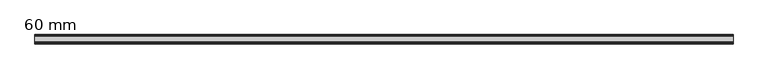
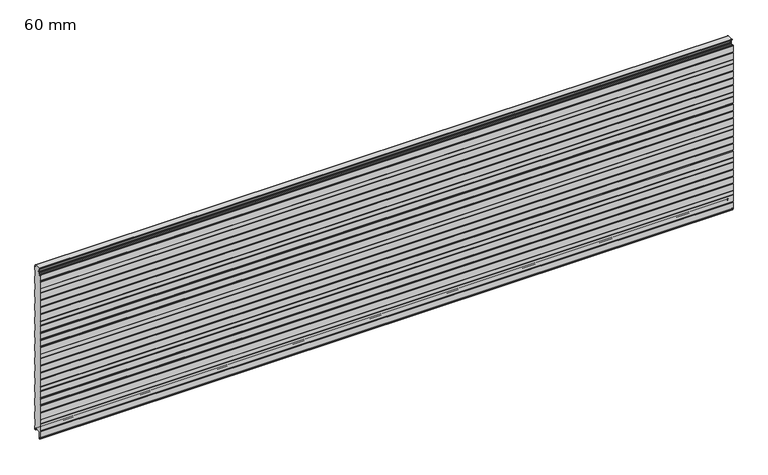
"""IFC4 building model written with IfcOpenShell, lengths in millimetres: plate geometry, HIANSA PANEL - H20.F02.002-PANELES DE FACHADA HORIZONTAL - PANEL PERFILADO - Panel de Muro Cortina : 60 mm."""

from ifc_helpers import new_model, si_unit, frame, origin, place, context, project, spatial, polyline, circle_curve, source, transform, mapped, element, save
from ifc_brep_helpers import plane_surface, cylinder_surface, revolved_surface, advanced_brep


def plate_60_mm_b20e5aa9(model_context):
    return source(origin(), model_context, "Body", "AdvancedBrep", [
        advanced_brep(
        [(-2200.0, -58.8752798, 1088.9050598), (-2200.0, -57.5170803, 1089.9655099), (-2200.0, -54.8776596, 1089.9655099), (-2200.0, -54.8776596, 1080.8), (-2200.0, -53.3776596, 1079.3), (-2200.0, -49.1276596, 1079.3), (-2200.0, -47.6276596, 1080.8), (-2200.0, -47.6276596, 1082.4013031), (-2200.0, -46.9880243, 1083.6300312), (-2200.0, -40.9305067, 1087.8715506), (-2200.0, -40.0776596, 1089.5098547), (-2200.0, -40.0776596, 1098.6062275), (-2200.0, -39.3889845, 1099.7990478), (-2200.0, -39.3889845, 1100.7990478), (-2200.0, -40.0776596, 1101.9918681), (-2200.0, -40.0776596, 1111.0896684), (-2200.0, -40.9305067, 1112.7279725), (-2200.0, -46.9880243, 1116.969492), (-2200.0, -47.6276596, 1118.19822), (-2200.0, -47.6276596, 1121.5805697), (-2200.0, -46.1276596, 1123.0805697), (-2200.0, -7.7494039, 1123.0810465), (-2200.0, -6.7486887, 1122.0803313), (-2200.0, -6.7486887, 1115.9337883), (-2200.0, -4.7472517, 1113.9323514), (-2200.0, -1.4941037, 1113.9323514), (-2200.0, -0.5, 1112.9382477), (-2200.0, -0.5, 1088.0627766), (-2200.0, -1.5005169, 1085.0504228), (-2200.0, -1.5005169, 1044.8881451), (-2200.0, -0.5, 1041.8865945), (-2200.0, -0.5, 997.0519734), (-2200.0, -1.5005169, 994.0504228), (-2200.0, -1.5005169, 953.8881451), (-2200.0, -0.5, 950.8865945), (-2200.0, -0.5, 906.0519734), (-2200.0, -1.5005169, 903.0504228), (-2200.0, -1.5005169, 862.8881451), (-2200.0, -0.5, 859.8865945), (-2200.0, -0.5, 815.0519734), (-2200.0, -1.5005169, 812.0504228), (-2200.0, -1.5005169, 771.8881451), (-2200.0, -0.5, 768.8865945), (-2200.0, -0.5, 724.0519734), (-2200.0, -1.5005169, 721.0504228), (-2200.0, -1.5005169, 680.8881451), (-2200.0, -0.5, 677.8865945), (-2200.0, -0.5, 633.0519734), (-2200.0, -1.5005169, 630.0504228), (-2200.0, -1.5005169, 589.8881451), (-2200.0, -0.5, 586.8865945), (-2200.0, -0.5, 542.0519734), (-2200.0, -1.5005169, 539.0504228), (-2200.0, -1.5005169, 498.8881451), (-2200.0, -0.5, 495.8865945), (-2200.0, -0.5, 451.0519734), (-2200.0, -1.5005169, 448.0504228), (-2200.0, -1.5005169, 407.8881451), (-2200.0, -0.5, 404.8865945), (-2200.0, -0.5, 360.0519734), (-2200.0, -1.5005169, 357.0504228), (-2200.0, -1.5005169, 316.8881451), (-2200.0, -0.5, 313.8865945), (-2200.0, -0.5, 269.0519734), (-2200.0, -1.5005169, 266.0504228), (-2200.0, -1.5005169, 225.8881451), (-2200.0, -0.5, 222.8865945), (-2200.0, -0.5, 178.0519734), (-2200.0, -1.5005169, 175.0504228), (-2200.0, -1.5005169, 134.8881451), (-2200.0, -0.5, 131.8865945), (-2200.0, -0.5, 87.0519734), (-2200.0, -1.5005169, 84.0504228), (-2200.0, -1.5005169, 43.8881451), (-2200.0, -0.5, 40.8962672), (-2200.0, -0.5, 15.9680961), (-2200.0, -1.5000258, 14.9680403), (-2200.0, -4.4999967, 14.9677262), (-2200.0, -5.5000043, 15.9677319), (-2200.0, -5.5004096, 23.5818123), (-2200.0, -7.5396439, 25.6210465), (-2200.0, -46.3470846, 25.6210465), (-2200.0, -48.8839497, 23.0841814), (-2200.0, -48.8839497, -19.2), (-2200.0, -53.6276596, -19.2), (-2200.0, -53.6276596, -10.5344901), (-2200.0, -55.1276596, -9.0344901), (-2200.0, -57.5178943, -9.0344901), (-2200.0, -58.8750825, -7.9748295), (-2200.0, -59.5, -5.4751593), (-2200.0, -59.5, 33.6239573), (-2200.0, -58.4846118, 37.6855101), (-2200.0, -59.5, 41.7470629), (-2200.0, -59.5, 84.8265935), (-2200.0, -58.5, 87.8265935), (-2200.0, -58.5, 113.1008712), (-2200.0, -59.5, 116.1008712), (-2200.0, -59.5, 159.1804017), (-2200.0, -58.4846118, 163.2419545), (-2200.0, -59.5, 167.3035073), (-2200.0, -59.5, 206.4026239), (-2200.0, -58.4846118, 210.4641767), (-2200.0, -59.5, 214.5257295), (-2200.0, -59.5, 253.6248461), (-2200.0, -58.4846118, 257.6863989), (-2200.0, -59.5, 261.7479517), (-2200.0, -59.5, 304.8274823), (-2200.0, -58.5, 307.8274823), (-2200.0, -58.5, 333.10176), (-2200.0, -59.5, 336.10176), (-2200.0, -59.5, 379.1812905), (-2200.0, -58.4846118, 383.2428433), (-2200.0, -59.5, 387.3043961), (-2200.0, -59.5, 426.4035127), (-2200.0, -58.4846118, 430.4650655), (-2200.0, -59.5, 434.5266183), (-2200.0, -59.5, 473.6257349), (-2200.0, -58.4846118, 477.6872877), (-2200.0, -59.5, 481.7488405), (-2200.0, -59.5, 524.8283711), (-2200.0, -58.5, 527.8283711), (-2200.0, -58.5, 553.1026488), (-2200.0, -59.5, 556.1026488), (-2200.0, -59.5, 599.1821793), (-2200.0, -58.4846118, 603.2437321), (-2200.0, -59.5, 607.3052849), (-2200.0, -59.5, 646.4044015), (-2200.0, -58.4846118, 650.4659543), (-2200.0, -59.5, 654.5275071), (-2200.0, -59.5, 693.6266237), (-2200.0, -58.4846118, 697.6881765), (-2200.0, -59.5, 701.7497293), (-2200.0, -59.5, 744.8292599), (-2200.0, -58.5, 747.8292599), (-2200.0, -58.5, 773.1035376), (-2200.0, -59.5, 776.1035376), (-2200.0, -59.5, 819.1830681), (-2200.0, -58.4846118, 823.2446209), (-2200.0, -59.5, 827.3061737), (-2200.0, -59.5, 866.4052903), (-2200.0, -58.4846118, 870.4668431), (-2200.0, -59.5, 874.5283959), (-2200.0, -59.5, 913.6275125), (-2200.0, -58.4846118, 917.6890653), (-2200.0, -59.5, 921.7506181), (-2200.0, -59.5, 964.8301487), (-2200.0, -58.5, 967.8301487), (-2200.0, -58.5, 993.1044264), (-2200.0, -59.5, 996.1044264), (-2200.0, -59.5, 1039.1839569), (-2200.0, -58.4846118, 1043.2455097), (-2200.0, -59.5, 1047.3070625), (-2200.0, -59.5, 1086.4061791), (2200.0, -58.8752798, 1088.9050598), (2200.0, -59.5, 1086.4061791), (2200.0, -59.5, 1047.3070625), (2200.0, -58.4846118, 1043.2455097), (2200.0, -59.5, 1039.1839569), (2200.0, -59.5, 996.1044264), (2200.0, -58.5, 993.1044264), (2200.0, -58.5, 967.8301487), (2200.0, -59.5, 964.8301487), (2200.0, -59.5, 921.7506181), (2200.0, -58.4846118, 917.6890653), (2200.0, -59.5, 913.6275125), (2200.0, -59.5, 874.5283959), (2200.0, -58.4846118, 870.4668431), (2200.0, -59.5, 866.4052903), (2200.0, -59.5, 827.3061737), (2200.0, -58.4846118, 823.2446209), (2200.0, -59.5, 819.1830681), (2200.0, -59.5, 776.1035376), (2200.0, -58.5, 773.1035376), (2200.0, -58.5, 747.8292599), (2200.0, -59.5, 744.8292599), (2200.0, -59.5, 701.7497293), (2200.0, -58.4846118, 697.6881765), (2200.0, -59.5, 693.6266237), (2200.0, -59.5, 654.5275071), (2200.0, -58.4846118, 650.4659543), (2200.0, -59.5, 646.4044015), (2200.0, -59.5, 607.3052849), (2200.0, -58.4846118, 603.2437321), (2200.0, -59.5, 599.1821793), (2200.0, -59.5, 556.1026488), (2200.0, -58.5, 553.1026488), (2200.0, -58.5, 527.8283711), (2200.0, -59.5, 524.8283711), (2200.0, -59.5, 481.7488405), (2200.0, -58.4846118, 477.6872877), (2200.0, -59.5, 473.6257349), (2200.0, -59.5, 434.5266183), (2200.0, -58.4846118, 430.4650655), (2200.0, -59.5, 426.4035127), (2200.0, -59.5, 387.3043961), (2200.0, -58.4846118, 383.2428433), (2200.0, -59.5, 379.1812905), (2200.0, -59.5, 336.10176), (2200.0, -58.5, 333.10176), (2200.0, -58.5, 307.8274823), (2200.0, -59.5, 304.8274823), (2200.0, -59.5, 261.7479517), (2200.0, -58.4846118, 257.6863989), (2200.0, -59.5, 253.6248461), (2200.0, -59.5, 214.5257295), (2200.0, -58.4846118, 210.4641767), (2200.0, -59.5, 206.4026239), (2200.0, -59.5, 167.3035073), (2200.0, -58.4846118, 163.2419545), (2200.0, -59.5, 159.1804017), (2200.0, -59.5, 116.1008712), (2200.0, -58.5, 113.1008712), (2200.0, -58.5, 87.8265935), (2200.0, -59.5, 84.8265935), (2200.0, -59.5, 41.7470629), (2200.0, -58.4846118, 37.6855101), (2200.0, -59.5, 33.6239573), (2200.0, -59.5, -5.4751593), (2200.0, -58.8750825, -7.9748295), (2200.0, -57.5178943, -9.0344901), (2200.0, -55.1276596, -9.0344901), (2200.0, -53.6276596, -10.5344901), (2200.0, -53.6276596, -19.2), (2200.0, -48.8839497, -19.2), (2200.0, -48.8839497, 23.0841814), (2200.0, -46.3470846, 25.6210465), (2200.0, -7.5396439, 25.6210465), (2200.0, -5.5004096, 23.5818123), (2200.0, -5.5004096, 15.9677319), (2200.0, -4.4999967, 14.9677262), (2200.0, -1.5000258, 14.9680403), (2200.0, -0.5, 15.9680961), (2200.0, -0.5, 40.8962672), (2200.0, -1.5005169, 43.8881451), (2200.0, -1.5005169, 84.0504228), (2200.0, -0.5, 87.0519734), (2200.0, -0.5, 131.8865945), (2200.0, -1.5005169, 134.8881451), (2200.0, -1.5005169, 175.0504228), (2200.0, -0.5, 178.0519734), (2200.0, -0.5, 222.8865945), (2200.0, -1.5005169, 225.8881451), (2200.0, -1.5005169, 266.0504228), (2200.0, -0.5, 269.0519734), (2200.0, -0.5, 313.8865945), (2200.0, -1.5005169, 316.8881451), (2200.0, -1.5005169, 357.0504228), (2200.0, -0.5, 360.0519734), (2200.0, -0.5, 404.8865945), (2200.0, -1.5005169, 407.8881451), (2200.0, -1.5005169, 448.0504228), (2200.0, -0.5, 451.0519734), (2200.0, -0.5, 495.8865945), (2200.0, -1.5005169, 498.8881451), (2200.0, -1.5005169, 539.0504228), (2200.0, -0.5, 542.0519734), (2200.0, -0.5, 586.8865945), (2200.0, -1.5005169, 589.8881451), (2200.0, -1.5005169, 630.0504228), (2200.0, -0.5, 633.0519734), (2200.0, -0.5, 677.8865945), (2200.0, -1.5005169, 680.8881451), (2200.0, -1.5005169, 721.0504228), (2200.0, -0.5, 724.0519734), (2200.0, -0.5, 768.8865945), (2200.0, -1.5005169, 771.8881451), (2200.0, -1.5005169, 812.0504228), (2200.0, -0.5, 815.0519734), (2200.0, -0.5, 859.8865945), (2200.0, -1.5005169, 862.8881451), (2200.0, -1.5005169, 903.0504228), (2200.0, -0.5, 906.0519734), (2200.0, -0.5, 950.8865945), (2200.0, -1.5005169, 953.8881451), (2200.0, -1.5005169, 994.0504228), (2200.0, -0.5, 997.0519734), (2200.0, -0.5, 1041.8865945), (2200.0, -1.5005169, 1044.8881451), (2200.0, -1.5005169, 1085.0504228), (2200.0, -0.5, 1088.0627766), (2200.0, -0.5, 1112.9382477), (2200.0, -1.4941037, 1113.9323514), (2200.0, -4.7472517, 1113.9323514), (2200.0, -6.7486887, 1115.9337883), (2200.0, -6.7486887, 1122.0803313), (2200.0, -7.7494039, 1123.0810465), (2200.0, -46.1276596, 1123.0810465), (2200.0, -47.6276596, 1121.5805697), (2200.0, -47.6276596, 1118.19822), (2200.0, -46.9880243, 1116.969492), (2200.0, -40.9305067, 1112.7279725), (2200.0, -40.0776596, 1111.0896684), (2200.0, -40.0776596, 1101.9918681), (2200.0, -39.3889845, 1100.7990478), (2200.0, -39.3889845, 1099.7990478), (2200.0, -40.0776596, 1098.6062275), (2200.0, -40.0776596, 1089.5098547), (2200.0, -40.9305067, 1087.8715506), (2200.0, -46.9880243, 1083.6300312), (2200.0, -47.6276596, 1082.4013031), (2200.0, -47.6276596, 1080.8), (2200.0, -49.1276596, 1079.3), (2200.0, -53.3776596, 1079.3), (2200.0, -54.8776596, 1080.8), (2200.0, -54.8776596, 1089.9655099), (2200.0, -57.5170803, 1089.9655099)],
        [
            (0, 1, circle_curve(frame((-2200.0, -57.5170803, 1088.5655099), z_axis=(-1.0, 0.0, 0.0), x_axis=(0.0, 0.0, 1.0)), 1.4)),
            (1, 2),
            (2, 3),
            (3, 4, circle_curve(frame((-2200.0, -53.3776596, 1080.8), z_axis=(1.0, 0.0, 0.0), x_axis=(0.0, 0.0, 1.0)), 1.5)),
            (4, 5),
            (5, 6, circle_curve(frame((-2200.0, -49.1276596, 1080.8), z_axis=(1.0, 0.0, 0.0), x_axis=(0.0, 0.0, 1.0)), 1.5)),
            (6, 7),
            (7, 8, circle_curve(frame((-2200.0, -46.1276596, 1082.4013031), z_axis=(-1.0, 0.0, 0.0), x_axis=(0.0, 0.0, 1.0)), 1.5)),
            (8, 9),
            (9, 10, circle_curve(frame((-2200.0, -42.0776596, 1089.5098547), z_axis=(1.0, 0.0, 0.0), x_axis=(0.0, 0.0, 1.0)), 2.0)),
            (10, 11),
            (11, 12),
            (12, 13, circle_curve(frame((-2200.0, -40.2550099, 1100.2990478), z_axis=(1.0, 0.0, 0.0), x_axis=(0.0, 0.0, 1.0)), 1.0)),
            (13, 14),
            (14, 15),
            (15, 16, circle_curve(frame((-2200.0, -42.0776596, 1111.0896684), z_axis=(1.0, 0.0, 0.0), x_axis=(0.0, 0.0, 1.0)), 2.0)),
            (16, 17),
            (17, 18, circle_curve(frame((-2200.0, -46.1276596, 1118.19822), z_axis=(-1.0, 0.0, 0.0), x_axis=(0.0, 0.0, 1.0)), 1.5)),
            (18, 19),
            (19, 20, circle_curve(frame((-2200.0, -46.1276596, 1121.5805697), z_axis=(-1.0, 0.0, 0.0), x_axis=(0.0, 0.0, 1.0)), 1.5)),
            (20, 21),
            (21, 22, circle_curve(frame((-2200.0, -7.7494039, 1122.0803313), z_axis=(-1.0, 0.0, 0.0), x_axis=(0.0, 0.0, 1.0)), 1.0007153)),
            (22, 23),
            (23, 24, circle_curve(frame((-2200.0, -4.7472517, 1115.9337883), z_axis=(1.0, 0.0, 0.0), x_axis=(0.0, 0.0, 1.0)), 2.0014369)),
            (24, 25),
            (25, 26, circle_curve(frame((-2200.0, -1.4941037, 1112.9382477), z_axis=(-1.0, 0.0, 0.0), x_axis=(0.0, 0.0, 1.0)), 0.9941037)),
            (26, 27),
            (27, 28),
            (28, 29),
            (29, 30),
            (30, 31),
            (31, 32),
            (32, 33),
            (33, 34),
            (34, 35),
            (35, 36),
            (36, 37),
            (37, 38),
            (38, 39),
            (39, 40),
            (40, 41),
            (41, 42),
            (42, 43),
            (43, 44),
            (44, 45),
            (45, 46),
            (46, 47),
            (47, 48),
            (48, 49),
            (49, 50),
            (50, 51),
            (51, 52),
            (52, 53),
            (53, 54),
            (54, 55),
            (55, 56),
            (56, 57),
            (57, 58),
            (58, 59),
            (59, 60),
            (60, 61),
            (61, 62),
            (62, 63),
            (63, 64),
            (64, 65),
            (65, 66),
            (66, 67),
            (67, 68),
            (68, 69),
            (69, 70),
            (70, 71),
            (71, 72),
            (72, 73),
            (73, 74),
            (74, 75),
            (75, 76, circle_curve(frame((-2200.0, -1.5000558, 15.9680961), z_axis=(-1.0, 0.0, 0.0), x_axis=(0.0, 0.0, 1.0)), 1.0000558)),
            (76, 77),
            (77, 78, circle_curve(frame((-2200.0, -4.4999986, 15.9677319), z_axis=(-1.0, 0.0, 0.0), x_axis=(0.0, 0.0, 1.0)), 1.0000057)),
            (78, 79),
            (79, 80, circle_curve(frame((-2200.0, -7.5396439, 23.5818123), z_axis=(1.0, 0.0, 0.0), x_axis=(0.0, 0.0, 1.0)), 2.0392343)),
            (80, 81),
            (81, 82, circle_curve(frame((-2200.0, -46.3470846, 23.0841814), z_axis=(1.0, 0.0, 0.0), x_axis=(0.0, 0.0, 1.0)), 2.5368651)),
            (82, 83),
            (83, 84),
            (84, 85),
            (85, 86, circle_curve(frame((-2200.0, -55.1276596, -10.5344901), z_axis=(1.0, 0.0, 0.0), x_axis=(0.0, 0.0, 1.0)), 1.5)),
            (86, 87),
            (87, 88, circle_curve(frame((-2200.0, -57.5178943, -7.6355325), z_axis=(-1.0, 0.0, 0.0), x_axis=(0.0, 0.0, 1.0)), 1.3989576)),
            (88, 89),
            (89, 90),
            (90, 91),
            (91, 92),
            (92, 93),
            (93, 94),
            (94, 95),
            (95, 96),
            (96, 97),
            (97, 98),
            (98, 99),
            (99, 100),
            (100, 101),
            (101, 102),
            (102, 103),
            (103, 104),
            (104, 105),
            (105, 106),
            (106, 107),
            (107, 108),
            (108, 109),
            (109, 110),
            (110, 111),
            (111, 112),
            (112, 113),
            (113, 114),
            (114, 115),
            (115, 116),
            (116, 117),
            (117, 118),
            (118, 119),
            (119, 120),
            (120, 121),
            (121, 122),
            (122, 123),
            (123, 124),
            (124, 125),
            (125, 126),
            (126, 127),
            (127, 128),
            (128, 129),
            (129, 130),
            (130, 131),
            (131, 132),
            (132, 133),
            (133, 134),
            (134, 135),
            (135, 136),
            (136, 137),
            (137, 138),
            (138, 139),
            (139, 140),
            (140, 141),
            (141, 142),
            (142, 143),
            (143, 144),
            (144, 145),
            (145, 146),
            (146, 147),
            (147, 148),
            (148, 149),
            (149, 150),
            (150, 151),
            (151, 152),
            (152, 0),
            (153, 154),
            (154, 155),
            (155, 156),
            (156, 157),
            (157, 158),
            (158, 159),
            (159, 160),
            (160, 161),
            (161, 162),
            (162, 163),
            (163, 164),
            (164, 165),
            (165, 166),
            (166, 167),
            (167, 168),
            (168, 169),
            (169, 170),
            (170, 171),
            (171, 172),
            (172, 173),
            (173, 174),
            (174, 175),
            (175, 176),
            (176, 177),
            (177, 178),
            (178, 179),
            (179, 180),
            (180, 181),
            (181, 182),
            (182, 183),
            (183, 184),
            (184, 185),
            (185, 186),
            (186, 187),
            (187, 188),
            (188, 189),
            (189, 190),
            (190, 191),
            (191, 192),
            (192, 193),
            (193, 194),
            (194, 195),
            (195, 196),
            (196, 197),
            (197, 198),
            (198, 199),
            (199, 200),
            (200, 201),
            (201, 202),
            (202, 203),
            (203, 204),
            (204, 205),
            (205, 206),
            (206, 207),
            (207, 208),
            (208, 209),
            (209, 210),
            (210, 211),
            (211, 212),
            (212, 213),
            (213, 214),
            (214, 215),
            (215, 216),
            (216, 217),
            (217, 218),
            (218, 219, circle_curve(frame((2200.0, -57.5178943, -7.6355325), z_axis=(1.0, 0.0, 0.0), x_axis=(0.0, 0.0, 1.0)), 1.3989576)),
            (219, 220),
            (220, 221, circle_curve(frame((2200.0, -55.1276596, -10.5344901), z_axis=(-1.0, 0.0, 0.0), x_axis=(0.0, 0.0, 1.0)), 1.5)),
            (221, 222),
            (222, 223),
            (223, 224),
            (224, 225, circle_curve(frame((2200.0, -46.3470846, 23.0841814), z_axis=(-1.0, 0.0, 0.0), x_axis=(0.0, 0.0, 1.0)), 2.5368651)),
            (225, 226),
            (226, 227, circle_curve(frame((2200.0, -7.5396439, 23.5818123), z_axis=(-1.0, 0.0, 0.0), x_axis=(0.0, 0.0, 1.0)), 2.0392343)),
            (227, 228),
            (228, 229, circle_curve(frame((2200.0, -4.4999986, 15.9677319), z_axis=(1.0, 0.0, 0.0), x_axis=(0.0, 0.0, 1.0)), 1.0000057)),
            (229, 230),
            (230, 231, circle_curve(frame((2200.0, -1.5000558, 15.9680961), z_axis=(1.0, 0.0, 0.0), x_axis=(0.0, 0.0, 1.0)), 1.0000558)),
            (231, 232),
            (232, 233),
            (233, 234),
            (234, 235),
            (235, 236),
            (236, 237),
            (237, 238),
            (238, 239),
            (239, 240),
            (240, 241),
            (241, 242),
            (242, 243),
            (243, 244),
            (244, 245),
            (245, 246),
            (246, 247),
            (247, 248),
            (248, 249),
            (249, 250),
            (250, 251),
            (251, 252),
            (252, 253),
            (253, 254),
            (254, 255),
            (255, 256),
            (256, 257),
            (257, 258),
            (258, 259),
            (259, 260),
            (260, 261),
            (261, 262),
            (262, 263),
            (263, 264),
            (264, 265),
            (265, 266),
            (266, 267),
            (267, 268),
            (268, 269),
            (269, 270),
            (270, 271),
            (271, 272),
            (272, 273),
            (273, 274),
            (274, 275),
            (275, 276),
            (276, 277),
            (277, 278),
            (278, 279),
            (279, 280),
            (280, 281, circle_curve(frame((2200.0, -1.4941037, 1112.9382477), z_axis=(1.0, 0.0, 0.0), x_axis=(0.0, 0.0, 1.0)), 0.9941037)),
            (281, 282),
            (282, 283, circle_curve(frame((2200.0, -4.7472517, 1115.9337883), z_axis=(-1.0, 0.0, 0.0), x_axis=(0.0, 0.0, 1.0)), 2.0014369)),
            (283, 284),
            (284, 285, circle_curve(frame((2200.0, -7.7494039, 1122.0803313), z_axis=(1.0, 0.0, 0.0), x_axis=(0.0, 0.0, 1.0)), 1.0007153)),
            (285, 286),
            (286, 287, circle_curve(frame((2200.0, -46.1276596, 1121.5805697), z_axis=(1.0, 0.0, 0.0), x_axis=(0.0, 0.0, 1.0)), 1.5)),
            (287, 288),
            (288, 289, circle_curve(frame((2200.0, -46.1276596, 1118.19822), z_axis=(1.0, 0.0, 0.0), x_axis=(0.0, 0.0, 1.0)), 1.5)),
            (289, 290),
            (290, 291, circle_curve(frame((2200.0, -42.0776596, 1111.0896684), z_axis=(-1.0, 0.0, 0.0), x_axis=(0.0, 0.0, 1.0)), 2.0)),
            (291, 292),
            (292, 293),
            (293, 294, circle_curve(frame((2200.0, -40.2550099, 1100.2990478), z_axis=(-1.0, 0.0, 0.0), x_axis=(0.0, 0.0, 1.0)), 1.0)),
            (294, 295),
            (295, 296),
            (296, 297, circle_curve(frame((2200.0, -42.0776596, 1089.5098547), z_axis=(-1.0, 0.0, 0.0), x_axis=(0.0, 0.0, 1.0)), 2.0)),
            (297, 298),
            (298, 299, circle_curve(frame((2200.0, -46.1276596, 1082.4013031), z_axis=(1.0, 0.0, 0.0), x_axis=(0.0, 0.0, 1.0)), 1.5)),
            (299, 300),
            (300, 301, circle_curve(frame((2200.0, -49.1276596, 1080.8), z_axis=(-1.0, 0.0, 0.0), x_axis=(0.0, 0.0, 1.0)), 1.5)),
            (301, 302),
            (302, 303, circle_curve(frame((2200.0, -53.3776596, 1080.8), z_axis=(-1.0, 0.0, 0.0), x_axis=(0.0, 0.0, 1.0)), 1.5)),
            (303, 304),
            (304, 305),
            (305, 153, circle_curve(frame((2200.0, -57.5170803, 1088.5655099), z_axis=(1.0, 0.0, 0.0), x_axis=(0.0, 0.0, 1.0)), 1.4)),
            (147, 159),
            (158, 148),
            (146, 160),
            (145, 161),
            (144, 162),
            (143, 163),
            (142, 164),
            (141, 165),
            (140, 166),
            (139, 167),
            (138, 168),
            (137, 169),
            (136, 170),
            (135, 171),
            (134, 172),
            (133, 173),
            (132, 174),
            (131, 175),
            (130, 176),
            (129, 177),
            (128, 178),
            (127, 179),
            (126, 180),
            (125, 181),
            (124, 182),
            (123, 183),
            (122, 184),
            (121, 185),
            (120, 186),
            (119, 187),
            (118, 188),
            (117, 189),
            (116, 190),
            (115, 191),
            (114, 192),
            (113, 193),
            (112, 194),
            (111, 195),
            (110, 196),
            (109, 197),
            (108, 198),
            (107, 199),
            (106, 200),
            (105, 201),
            (104, 202),
            (103, 203),
            (102, 204),
            (101, 205),
            (100, 206),
            (99, 207),
            (98, 208),
            (97, 209),
            (96, 210),
            (95, 211),
            (94, 212),
            (93, 213),
            (92, 214),
            (91, 215),
            (90, 216),
            (89, 217),
            (88, 218),
            (87, 219),
            (86, 220),
            (85, 221),
            (84, 222),
            (83, 223),
            (82, 224),
            (81, 225),
            (80, 226),
            (79, 227),
            (78, 228),
            (74, 232),
            (231, 75),
            (73, 233),
            (72, 234),
            (71, 235),
            (70, 236),
            (69, 237),
            (68, 238),
            (67, 239),
            (66, 240),
            (65, 241),
            (64, 242),
            (63, 243),
            (62, 244),
            (61, 245),
            (60, 246),
            (59, 247),
            (58, 248),
            (57, 249),
            (56, 250),
            (55, 251),
            (54, 252),
            (53, 253),
            (52, 254),
            (51, 255),
            (50, 256),
            (49, 257),
            (48, 258),
            (47, 259),
            (46, 260),
            (45, 261),
            (44, 262),
            (43, 263),
            (42, 264),
            (41, 265),
            (40, 266),
            (39, 267),
            (38, 268),
            (37, 269),
            (36, 270),
            (35, 271),
            (34, 272),
            (33, 273),
            (32, 274),
            (31, 275),
            (30, 276),
            (152, 154),
            (153, 0),
            (151, 155),
            (150, 156),
            (149, 157),
            (29, 277),
            (28, 278),
            (27, 279),
            (26, 280),
            (25, 281),
            (24, 282),
            (23, 283),
            (22, 284),
            (21, 285),
            (20, 286),
            (19, 287),
            (18, 288),
            (17, 289),
            (16, 290),
            (15, 291),
            (9, 297),
            (296, 10),
            (8, 298),
            (7, 299),
            (6, 300),
            (5, 301),
            (4, 302),
            (3, 303),
            (2, 304),
            (1, 305),
            (14, 292),
            (13, 293),
            (12, 294),
            (11, 295),
            (77, 229),
            (76, 230),
        ],
        [
            plane_surface(frame((-2200.0, 0.0, 0.0), z_axis=(-1.0, 0.0, 0.0), x_axis=(0.0, 0.0, 1.0))),
            plane_surface(frame((2200.0, 0.0, 0.0), z_axis=(1.0, 0.0, 0.0), x_axis=(0.0, 0.0, 1.0))),
            plane_surface(frame((-2200.0, -59.5, 996.1044264), z_axis=(0.0, -0.9486832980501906, -0.3162277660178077), x_axis=(1.0, 0.0, 0.0))),
            plane_surface(frame((-2200.0, -58.5, 993.1044264), z_axis=(0.0, -1.0, 0.0), x_axis=(1.0, 0.0, 0.0))),
            plane_surface(frame((-2200.0, -58.5, 967.8301487), z_axis=(0.0, -0.9486832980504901, 0.3162277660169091), x_axis=(1.0, 0.0, 0.0))),
            plane_surface(frame((-2200.0, -59.5, 964.8301487), z_axis=(0.0, -1.0, 0.0), x_axis=(1.0, 0.0, 0.0))),
            plane_surface(frame((-2200.0, -59.5, 921.7506181), z_axis=(0.0, -0.9701425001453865, -0.2425356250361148), x_axis=(1.0, 0.0, 0.0))),
            plane_surface(frame((-2200.0, -58.4846118, 917.6890653), z_axis=(0.0, -0.9701425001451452, 0.2425356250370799), x_axis=(1.0, 0.0, 0.0))),
            plane_surface(frame((-2200.0, -59.5, 913.6275125), z_axis=(0.0, -1.0, 0.0), x_axis=(1.0, 0.0, 0.0))),
            plane_surface(frame((-2200.0, -59.5, 874.5283959), z_axis=(0.0, -0.9701425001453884, -0.2425356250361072), x_axis=(1.0, 0.0, 0.0))),
            plane_surface(frame((-2200.0, -58.4846118, 870.4668431), z_axis=(0.0, -0.9701425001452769, 0.24253562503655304), x_axis=(1.0, 0.0, 0.0))),
            plane_surface(frame((-2200.0, -59.5, 866.4052903), z_axis=(0.0, -1.0, 0.0), x_axis=(1.0, 0.0, 0.0))),
            plane_surface(frame((-2200.0, -59.5, 827.3061737), z_axis=(0.0, -0.9701425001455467, -0.24253562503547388), x_axis=(1.0, 0.0, 0.0))),
            plane_surface(frame((-2200.0, -58.4846118, 823.2446209), z_axis=(0.0, -0.9701425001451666, 0.24253562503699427), x_axis=(1.0, 0.0, 0.0))),
            plane_surface(frame((-2200.0, -59.5, 819.1830681), z_axis=(0.0, -1.0, 0.0), x_axis=(1.0, 0.0, 0.0))),
            plane_surface(frame((-2200.0, -59.5, 776.1035376), z_axis=(0.0, -0.9486832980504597, -0.3162277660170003), x_axis=(1.0, 0.0, 0.0))),
            plane_surface(frame((-2200.0, -58.5, 773.1035376), z_axis=(0.0, -1.0, 0.0), x_axis=(1.0, 0.0, 0.0))),
            plane_surface(frame((-2200.0, -58.5, 747.8292599), z_axis=(0.0, -0.9486832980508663, 0.3162277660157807), x_axis=(1.0, 0.0, 0.0))),
            plane_surface(frame((-2200.0, -59.5, 744.8292599), z_axis=(0.0, -1.0, 0.0), x_axis=(1.0, 0.0, 0.0))),
            plane_surface(frame((-2200.0, -59.5, 701.7497293), z_axis=(0.0, -0.9701425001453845, -0.24253562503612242), x_axis=(1.0, 0.0, 0.0))),
            plane_surface(frame((-2200.0, -58.4846118, 697.6881765), z_axis=(0.0, -0.9701425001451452, 0.2425356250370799), x_axis=(1.0, 0.0, 0.0))),
            plane_surface(frame((-2200.0, -59.5, 693.6266237), z_axis=(0.0, -1.0, 0.0), x_axis=(1.0, 0.0, 0.0))),
            plane_surface(frame((-2200.0, -59.5, 654.5275071), z_axis=(0.0, -0.9701425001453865, -0.2425356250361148), x_axis=(1.0, 0.0, 0.0))),
            plane_surface(frame((-2200.0, -58.4846118, 650.4659543), z_axis=(0.0, -0.9701425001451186, 0.24253562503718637), x_axis=(1.0, 0.0, 0.0))),
            plane_surface(frame((-2200.0, -59.5, 646.4044015), z_axis=(0.0, -1.0, 0.0), x_axis=(1.0, 0.0, 0.0))),
            plane_surface(frame((-2200.0, -59.5, 607.3052849), z_axis=(0.0, -0.9701425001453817, -0.24253562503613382), x_axis=(1.0, 0.0, 0.0))),
            plane_surface(frame((-2200.0, -58.4846118, 603.2437321), z_axis=(0.0, -0.9701425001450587, 0.242535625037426), x_axis=(1.0, 0.0, 0.0))),
            plane_surface(frame((-2200.0, -59.5, 599.1821793), z_axis=(0.0, -1.0, 0.0), x_axis=(1.0, 0.0, 0.0))),
            plane_surface(frame((-2200.0, -59.5, 556.1026488), z_axis=(0.0, -0.948683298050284, -0.3162277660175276), x_axis=(1.0, 0.0, 0.0))),
            plane_surface(frame((-2200.0, -58.5, 553.1026488), z_axis=(0.0, -1.0, 0.0), x_axis=(1.0, 0.0, 0.0))),
            plane_surface(frame((-2200.0, -58.5, 527.8283711), z_axis=(0.0, -0.9486832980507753, 0.31622776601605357), x_axis=(1.0, 0.0, 0.0))),
            plane_surface(frame((-2200.0, -59.5, 524.8283711), z_axis=(0.0, -1.0, 0.0), x_axis=(1.0, 0.0, 0.0))),
            plane_surface(frame((-2200.0, -59.5, 481.7488405), z_axis=(0.0, -0.9701425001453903, -0.2425356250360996), x_axis=(1.0, 0.0, 0.0))),
            plane_surface(frame((-2200.0, -58.4846118, 477.6872877), z_axis=(0.0, -0.9701425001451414, 0.24253562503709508), x_axis=(1.0, 0.0, 0.0))),
            plane_surface(frame((-2200.0, -59.5, 473.6257349), z_axis=(0.0, -1.0, 0.0), x_axis=(1.0, 0.0, 0.0))),
            plane_surface(frame((-2200.0, -59.5, 434.5266183), z_axis=(0.0, -0.9701425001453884, -0.2425356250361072), x_axis=(1.0, 0.0, 0.0))),
            plane_surface(frame((-2200.0, -58.4846118, 430.4650655), z_axis=(0.0, -0.9701425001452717, 0.24253562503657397), x_axis=(1.0, 0.0, 0.0))),
            plane_surface(frame((-2200.0, -59.5, 426.4035127), z_axis=(0.0, -1.0, 0.0), x_axis=(1.0, 0.0, 0.0))),
            plane_surface(frame((-2200.0, -59.5, 387.3043961), z_axis=(0.0, -0.9701425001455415, -0.2425356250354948), x_axis=(1.0, 0.0, 0.0))),
            plane_surface(frame((-2200.0, -58.4846118, 383.2428433), z_axis=(0.0, -0.9701425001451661, 0.2425356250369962), x_axis=(1.0, 0.0, 0.0))),
            plane_surface(frame((-2200.0, -59.5, 379.1812905), z_axis=(0.0, -1.0, 0.0), x_axis=(1.0, 0.0, 0.0))),
            plane_surface(frame((-2200.0, -59.5, 336.10176), z_axis=(0.0, -0.9486832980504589, -0.3162277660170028), x_axis=(1.0, 0.0, 0.0))),
            plane_surface(frame((-2200.0, -58.5, 333.10176), z_axis=(0.0, -1.0, 0.0), x_axis=(1.0, 0.0, 0.0))),
            plane_surface(frame((-2200.0, -58.5, 307.8274823), z_axis=(0.0, -0.9486832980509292, 0.3162277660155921), x_axis=(1.0, 0.0, 0.0))),
            plane_surface(frame((-2200.0, -59.5, 304.8274823), z_axis=(0.0, -1.0, 0.0), x_axis=(1.0, 0.0, 0.0))),
            plane_surface(frame((-2200.0, -59.5, 261.7479517), z_axis=(0.0, -0.9701425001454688, -0.2425356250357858), x_axis=(1.0, 0.0, 0.0))),
            plane_surface(frame((-2200.0, -58.4846118, 257.6863989), z_axis=(0.0, -0.9701425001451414, 0.24253562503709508), x_axis=(1.0, 0.0, 0.0))),
            plane_surface(frame((-2200.0, -59.5, 253.6248461), z_axis=(0.0, -1.0, 0.0), x_axis=(1.0, 0.0, 0.0))),
            plane_surface(frame((-2200.0, -59.5, 214.5257295), z_axis=(0.0, -0.9701425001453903, -0.2425356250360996), x_axis=(1.0, 0.0, 0.0))),
            plane_surface(frame((-2200.0, -58.4846118, 210.4641767), z_axis=(0.0, -0.9701425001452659, 0.24253562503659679), x_axis=(1.0, 0.0, 0.0))),
            plane_surface(frame((-2200.0, -59.5, 206.4026239), z_axis=(0.0, -1.0, 0.0), x_axis=(1.0, 0.0, 0.0))),
            plane_surface(frame((-2200.0, -59.5, 167.3035073), z_axis=(0.0, -0.9701425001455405, -0.2425356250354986), x_axis=(1.0, 0.0, 0.0))),
            plane_surface(frame((-2200.0, -58.4846118, 163.2419545), z_axis=(0.0, -0.9701425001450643, 0.24253562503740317), x_axis=(1.0, 0.0, 0.0))),
            plane_surface(frame((-2200.0, -59.5, 159.1804017), z_axis=(0.0, -1.0, 0.0), x_axis=(1.0, 0.0, 0.0))),
            plane_surface(frame((-2200.0, -59.5, 116.1008712), z_axis=(0.0, -0.948683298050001, -0.31622776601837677), x_axis=(1.0, 0.0, 0.0))),
            plane_surface(frame((-2200.0, -58.5, 113.1008712), z_axis=(0.0, -1.0, 0.0), x_axis=(1.0, 0.0, 0.0))),
            plane_surface(frame((-2200.0, -58.5, 87.8265935), z_axis=(0.0, -0.9486832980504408, 0.31622776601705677), x_axis=(1.0, 0.0, 0.0))),
            plane_surface(frame((-2200.0, -59.5, 84.8265935), z_axis=(0.0, -1.0, 0.0), x_axis=(1.0, 0.0, 0.0))),
            plane_surface(frame((-2200.0, -59.5, 41.7470629), z_axis=(0.0, -0.9701425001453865, -0.2425356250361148), x_axis=(1.0, 0.0, 0.0))),
            plane_surface(frame((-2200.0, -58.4846118, 37.6855101), z_axis=(0.0, -0.9701425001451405, 0.24253562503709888), x_axis=(1.0, 0.0, 0.0))),
            plane_surface(frame((-2200.0, -59.5, 33.6239573), z_axis=(0.0, -1.0, 0.0), x_axis=(1.0, 0.0, 0.0))),
            plane_surface(frame((-2200.0, -59.5, -5.4751593), z_axis=(0.0, -0.9701425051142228, -0.24253560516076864), x_axis=(1.0, 0.0, 0.0))),
            cylinder_surface(frame((-2200.0, -57.5178943, -7.6355325), z_axis=(-1.0, 0.0, 0.0), x_axis=(0.0, 0.0, 1.0)), 1.3989576),
            plane_surface(frame((-2200.0, -57.5178943, -9.0344901), z_axis=(0.0, 0.0, -1.0), x_axis=(1.0, 0.0, 0.0))),
            revolved_surface(polyline([(2200.0, -55.1276596, -9.0344901), (-2200.0, -55.1276596, -9.0344901)]), (-2200.0, -55.1276596, -10.5344901), (1.0, 0.0, 0.0)),
            plane_surface(frame((-2200.0, -53.6276596, -10.5344901), z_axis=(0.0, -1.0, 0.0), x_axis=(1.0, 0.0, 0.0))),
            plane_surface(frame((-2200.0, -53.6276596, -19.2), z_axis=(0.0, 0.0, -1.0), x_axis=(1.0, 0.0, 0.0))),
            plane_surface(frame((-2200.0, -48.8839497, -19.2), z_axis=(0.0, 1.0, 0.0), x_axis=(1.0, 0.0, 0.0))),
            revolved_surface(polyline([(2200.0, -46.3470846, 25.6210465), (-2200.0, -46.3470846, 25.6210465)]), (-2200.0, -46.3470846, 23.0841814), (1.0, 0.0, 0.0)),
            plane_surface(frame((-2200.0, -46.3470846, 25.6210465), z_axis=(0.0, 0.0, -1.0), x_axis=(1.0, 0.0, 0.0))),
            revolved_surface(polyline([(2200.0, -7.5396439, 25.6210466), (-2200.0, -7.5396439, 25.6210466)]), (-2200.0, -7.5396439, 23.5818123), (1.0, 0.0, 0.0)),
            plane_surface(frame((-2200.0, -5.5004096, 23.5818123), z_axis=(0.0, -1.0, 0.0), x_axis=(1.0, 0.0, 0.0))),
            plane_surface(frame((-2200.0, -0.5, 15.9680961), z_axis=(0.0, 1.0, 0.0), x_axis=(1.0, 0.0, 0.0))),
            plane_surface(frame((-2200.0, -0.5, 40.8962672), z_axis=(0.0, 0.9483762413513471, 0.31714744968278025), x_axis=(1.0, 0.0, 0.0))),
            plane_surface(frame((-2200.0, -1.5005169, 43.8881451), z_axis=(0.0, 1.0, 0.0), x_axis=(1.0, 0.0, 0.0))),
            plane_surface(frame((-2200.0, -1.5005169, 84.0504228), z_axis=(0.0, 0.9486832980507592, -0.3162277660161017), x_axis=(1.0, 0.0, 0.0))),
            plane_surface(frame((-2200.0, -0.5, 87.0519734), z_axis=(0.0, 1.0, 0.0), x_axis=(1.0, 0.0, 0.0))),
            plane_surface(frame((-2200.0, -0.5, 131.8865945), z_axis=(0.0, 0.948683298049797, 0.3162277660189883), x_axis=(1.0, 0.0, 0.0))),
            plane_surface(frame((-2200.0, -1.5005169, 134.8881451), z_axis=(0.0, 1.0, 0.0), x_axis=(1.0, 0.0, 0.0))),
            plane_surface(frame((-2200.0, -1.5005169, 175.0504228), z_axis=(0.0, 0.9486832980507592, -0.3162277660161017), x_axis=(1.0, 0.0, 0.0))),
            plane_surface(frame((-2200.0, -0.5, 178.0519734), z_axis=(0.0, 1.0, 0.0), x_axis=(1.0, 0.0, 0.0))),
            plane_surface(frame((-2200.0, -0.5, 222.8865945), z_axis=(0.0, 0.948683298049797, 0.3162277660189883), x_axis=(1.0, 0.0, 0.0))),
            plane_surface(frame((-2200.0, -1.5005169, 225.8881451), z_axis=(0.0, 1.0, 0.0), x_axis=(1.0, 0.0, 0.0))),
            plane_surface(frame((-2200.0, -1.5005169, 266.0504228), z_axis=(0.0, 0.9486832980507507, -0.3162277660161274), x_axis=(1.0, 0.0, 0.0))),
            plane_surface(frame((-2200.0, -0.5, 269.0519734), z_axis=(0.0, 1.0, 0.0), x_axis=(1.0, 0.0, 0.0))),
            plane_surface(frame((-2200.0, -0.5, 313.8865945), z_axis=(0.0, 0.9486832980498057, 0.31622776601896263), x_axis=(1.0, 0.0, 0.0))),
            plane_surface(frame((-2200.0, -1.5005169, 316.8881451), z_axis=(0.0, 1.0, 0.0), x_axis=(1.0, 0.0, 0.0))),
            plane_surface(frame((-2200.0, -1.5005169, 357.0504228), z_axis=(0.0, 0.9486832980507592, -0.3162277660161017), x_axis=(1.0, 0.0, 0.0))),
            plane_surface(frame((-2200.0, -0.5, 360.0519734), z_axis=(0.0, 1.0, 0.0), x_axis=(1.0, 0.0, 0.0))),
            plane_surface(frame((-2200.0, -0.5, 404.8865945), z_axis=(0.0, 0.948683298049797, 0.3162277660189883), x_axis=(1.0, 0.0, 0.0))),
            plane_surface(frame((-2200.0, -1.5005169, 407.8881451), z_axis=(0.0, 1.0, 0.0), x_axis=(1.0, 0.0, 0.0))),
            plane_surface(frame((-2200.0, -1.5005169, 448.0504228), z_axis=(0.0, 0.9486832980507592, -0.3162277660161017), x_axis=(1.0, 0.0, 0.0))),
            plane_surface(frame((-2200.0, -0.5, 451.0519734), z_axis=(0.0, 1.0, 0.0), x_axis=(1.0, 0.0, 0.0))),
            plane_surface(frame((-2200.0, -0.5, 495.8865945), z_axis=(0.0, 0.9486832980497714, 0.3162277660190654), x_axis=(1.0, 0.0, 0.0))),
            plane_surface(frame((-2200.0, -1.5005169, 498.8881451), z_axis=(0.0, 1.0, 0.0), x_axis=(1.0, 0.0, 0.0))),
            plane_surface(frame((-2200.0, -1.5005169, 539.0504228), z_axis=(0.0, 0.9486832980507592, -0.3162277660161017), x_axis=(1.0, 0.0, 0.0))),
            plane_surface(frame((-2200.0, -0.5, 542.0519734), z_axis=(0.0, 1.0, 0.0), x_axis=(1.0, 0.0, 0.0))),
            plane_surface(frame((-2200.0, -0.5, 586.8865945), z_axis=(0.0, 0.9486832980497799, 0.3162277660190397), x_axis=(1.0, 0.0, 0.0))),
            plane_surface(frame((-2200.0, -1.5005169, 589.8881451), z_axis=(0.0, 1.0, 0.0), x_axis=(1.0, 0.0, 0.0))),
            plane_surface(frame((-2200.0, -1.5005169, 630.0504228), z_axis=(0.0, 0.9486832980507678, -0.316227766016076), x_axis=(1.0, 0.0, 0.0))),
            plane_surface(frame((-2200.0, -0.5, 633.0519734), z_axis=(0.0, 1.0, 0.0), x_axis=(1.0, 0.0, 0.0))),
            plane_surface(frame((-2200.0, -0.5, 677.8865945), z_axis=(0.0, 0.9486832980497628, 0.3162277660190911), x_axis=(1.0, 0.0, 0.0))),
            plane_surface(frame((-2200.0, -1.5005169, 680.8881451), z_axis=(0.0, 1.0, 0.0), x_axis=(1.0, 0.0, 0.0))),
            plane_surface(frame((-2200.0, -1.5005169, 721.0504228), z_axis=(0.0, 0.9486832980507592, -0.3162277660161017), x_axis=(1.0, 0.0, 0.0))),
            plane_surface(frame((-2200.0, -0.5, 724.0519734), z_axis=(0.0, 1.0, 0.0), x_axis=(1.0, 0.0, 0.0))),
            plane_surface(frame((-2200.0, -0.5, 768.8865945), z_axis=(0.0, 0.9486832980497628, 0.3162277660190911), x_axis=(1.0, 0.0, 0.0))),
            plane_surface(frame((-2200.0, -1.5005169, 771.8881451), z_axis=(0.0, 1.0, 0.0), x_axis=(1.0, 0.0, 0.0))),
            plane_surface(frame((-2200.0, -1.5005169, 812.0504228), z_axis=(0.0, 0.9486832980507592, -0.3162277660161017), x_axis=(1.0, 0.0, 0.0))),
            plane_surface(frame((-2200.0, -0.5, 815.0519734), z_axis=(0.0, 1.0, 0.0), x_axis=(1.0, 0.0, 0.0))),
            plane_surface(frame((-2200.0, -0.5, 859.8865945), z_axis=(0.0, 0.9486832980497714, 0.3162277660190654), x_axis=(1.0, 0.0, 0.0))),
            plane_surface(frame((-2200.0, -1.5005169, 862.8881451), z_axis=(0.0, 1.0, 0.0), x_axis=(1.0, 0.0, 0.0))),
            plane_surface(frame((-2200.0, -1.5005169, 903.0504228), z_axis=(0.0, 0.9486832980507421, -0.3162277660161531), x_axis=(1.0, 0.0, 0.0))),
            plane_surface(frame((-2200.0, -0.5, 906.0519734), z_axis=(0.0, 1.0, 0.0), x_axis=(1.0, 0.0, 0.0))),
            plane_surface(frame((-2200.0, -0.5, 950.8865945), z_axis=(0.0, 0.9486832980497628, 0.3162277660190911), x_axis=(1.0, 0.0, 0.0))),
            plane_surface(frame((-2200.0, -1.5005169, 953.8881451), z_axis=(0.0, 1.0, 0.0), x_axis=(1.0, 0.0, 0.0))),
            plane_surface(frame((-2200.0, -1.5005169, 994.0504228), z_axis=(0.0, 0.9486832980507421, -0.3162277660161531), x_axis=(1.0, 0.0, 0.0))),
            plane_surface(frame((-2200.0, -0.5, 997.0519734), z_axis=(0.0, 1.0, 0.0), x_axis=(1.0, 0.0, 0.0))),
            plane_surface(frame((-2200.0, -58.8752798, 1088.9050598), z_axis=(0.0, -0.9701425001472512, 0.24253562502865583), x_axis=(1.0, 0.0, 0.0))),
            plane_surface(frame((-2200.0, -59.5, 1086.4061791), z_axis=(0.0, -1.0, 0.0), x_axis=(1.0, 0.0, 0.0))),
            plane_surface(frame((-2200.0, -59.5, 1047.3070625), z_axis=(0.0, -0.9701425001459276, -0.24253562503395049), x_axis=(1.0, 0.0, 0.0))),
            plane_surface(frame((-2200.0, -58.4846118, 1043.2455097), z_axis=(0.0, -0.970142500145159, 0.24253562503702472), x_axis=(1.0, 0.0, 0.0))),
            plane_surface(frame((-2200.0, -59.5, 1039.1839569), z_axis=(0.0, -1.0, 0.0), x_axis=(1.0, 0.0, 0.0))),
            plane_surface(frame((-2200.0, -0.5, 1041.8865945), z_axis=(0.0, 0.9486832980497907, 0.3162277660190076), x_axis=(1.0, 0.0, 0.0))),
            plane_surface(frame((-2200.0, -1.5005169, 1044.8881451), z_axis=(0.0, 1.0, 0.0), x_axis=(1.0, 0.0, 0.0))),
            plane_surface(frame((-2200.0, -1.5005169, 1085.0504228), z_axis=(0.0, 0.9490230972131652, -0.31520653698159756), x_axis=(1.0, 0.0, 0.0))),
            plane_surface(frame((-2200.0, -0.5, 1088.0627766), z_axis=(0.0, 1.0, 0.0), x_axis=(1.0, 0.0, 0.0))),
            cylinder_surface(frame((-2200.0, -1.4941037, 1112.9382477), z_axis=(-1.0, 0.0, 0.0), x_axis=(0.0, 0.0, 1.0)), 0.9941037),
            plane_surface(frame((-2200.0, -1.4941037, 1113.9323514), z_axis=(0.0, 0.0, 1.0), x_axis=(1.0, 0.0, 0.0))),
            revolved_surface(polyline([(2200.0, -4.7472517, 1117.9352252), (-2200.0, -4.7472517, 1117.9352252)]), (-2200.0, -4.7472517, 1115.9337883), (1.0, 0.0, 0.0)),
            plane_surface(frame((-2200.0, -6.7486887, 1115.9337883), z_axis=(0.0, 1.0, 0.0), x_axis=(1.0, 0.0, 0.0))),
            cylinder_surface(frame((-2200.0, -7.7494039, 1122.0803313), z_axis=(-1.0, 0.0, 0.0), x_axis=(0.0, 0.0, 1.0)), 1.0007153),
            plane_surface(frame((-2200.0, -7.7494039, 1123.0810465), z_axis=(0.0, 0.0, 1.0), x_axis=(1.0, 0.0, 0.0))),
            cylinder_surface(frame((-2200.0, -46.1276596, 1121.5805697), z_axis=(-1.0, 0.0, 0.0), x_axis=(0.0, 0.0, 1.0)), 1.5),
            plane_surface(frame((-2200.0, -47.6276596, 1121.5805697), z_axis=(0.0, -1.0, 0.0), x_axis=(1.0, 0.0, 0.0))),
            cylinder_surface(frame((-2200.0, -46.1276596, 1118.19822), z_axis=(-1.0, 0.0, 0.0), x_axis=(0.0, 0.0, 1.0)), 1.5),
            plane_surface(frame((-2200.0, -46.9880243, 1116.969492), z_axis=(0.0, -0.5735764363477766, -0.8191520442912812), x_axis=(1.0, 0.0, 0.0))),
            revolved_surface(polyline([(2200.0, -42.0776596, 1113.0896684), (-2200.0, -42.0776596, 1113.0896684)]), (-2200.0, -42.0776596, 1111.0896684), (1.0, 0.0, 0.0)),
            revolved_surface(polyline([(2200.0, -42.0776596, 1091.5098547), (-2200.0, -42.0776596, 1091.5098547)]), (-2200.0, -42.0776596, 1089.5098547), (1.0, 0.0, 0.0)),
            plane_surface(frame((-2200.0, -40.9305067, 1087.8715506), z_axis=(0.0, -0.5735764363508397, 0.8191520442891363), x_axis=(1.0, 0.0, 0.0))),
            cylinder_surface(frame((-2200.0, -46.1276596, 1082.4013031), z_axis=(-1.0, 0.0, 0.0), x_axis=(0.0, 0.0, 1.0)), 1.5),
            plane_surface(frame((-2200.0, -47.6276596, 1082.4013031), z_axis=(0.0, -1.0, 0.0), x_axis=(1.0, 0.0, 0.0))),
            revolved_surface(polyline([(2200.0, -49.1276596, 1082.3), (-2200.0, -49.1276596, 1082.3)]), (-2200.0, -49.1276596, 1080.8), (1.0, 0.0, 0.0)),
            plane_surface(frame((-2200.0, -49.1276596, 1079.3), z_axis=(0.0, 0.0, 1.0), x_axis=(1.0, 0.0, 0.0))),
            revolved_surface(polyline([(2200.0, -53.3776596, 1082.3), (-2200.0, -53.3776596, 1082.3)]), (-2200.0, -53.3776596, 1080.8), (1.0, 0.0, 0.0)),
            plane_surface(frame((-2200.0, -54.8776596, 1080.8), z_axis=(0.0, 1.0, 0.0), x_axis=(1.0, 0.0, 0.0))),
            plane_surface(frame((-2200.0, -54.8776596, 1089.9655099), z_axis=(0.0, 0.0, 1.0), x_axis=(1.0, 0.0, 0.0))),
            cylinder_surface(frame((-2200.0, -57.5170803, 1088.5655099), z_axis=(-1.0, 0.0, 0.0), x_axis=(0.0, 0.0, 1.0)), 1.4),
            plane_surface(frame((-2200.0, -40.0776596, 1111.0896684), z_axis=(0.0, -1.0, 0.0), x_axis=(1.0, 0.0, 0.0))),
            plane_surface(frame((-2200.0, -40.0776596, 1101.9918681), z_axis=(0.0, -0.8660254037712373, -0.5000000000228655), x_axis=(1.0, 0.0, 0.0))),
            revolved_surface(polyline([(2200.0, -40.2550099, 1101.2990478), (-2200.0, -40.2550099, 1101.2990478)]), (-2200.0, -40.2550099, 1100.2990478), (1.0, 0.0, 0.0)),
            plane_surface(frame((-2200.0, -39.3889845, 1099.7990478), z_axis=(0.0, -0.8660254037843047, 0.5000000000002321), x_axis=(1.0, 0.0, 0.0))),
            plane_surface(frame((-2200.0, -40.0776596, 1098.6062275), z_axis=(0.0, -1.0, 0.0), x_axis=(1.0, 0.0, 0.0))),
            cylinder_surface(frame((-2200.0, -4.4999986, 15.9677319), z_axis=(-1.0, 0.0, 0.0), x_axis=(0.0, 0.0, 1.0)), 1.0000057),
            plane_surface(frame((-2200.0, -4.4999967, 14.9677262), z_axis=(0.0, 0.00010468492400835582, -0.9999999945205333), x_axis=(1.0, 0.0, 0.0))),
            cylinder_surface(frame((-2200.0, -1.5000558, 15.9680961), z_axis=(-1.0, 0.0, 0.0), x_axis=(0.0, 0.0, 1.0)), 1.0000558),
        ],
        [
            (0, [[1, 2, 3, 4, 5, 6, 7, 8, 9, 10, 11, 12, 13, 14, 15, 16, 17, 18, 19, 20, 21, 22, 23, 24, 25, 26, 27, 28, 29, 30, 31, 32, 33, 34, 35, 36, 37, 38, 39, 40, 41, 42, 43, 44, 45, 46, 47, 48, 49, 50, 51, 52, 53, 54, 55, 56, 57, 58, 59, 60, 61, 62, 63, 64, 65, 66, 67, 68, 69, 70, 71, 72, 73, 74, 75, 76, 77, 78, 79, 80, 81, 82, 83, 84, 85, 86, 87, 88, 89, 90, 91, 92, 93, 94, 95, 96, 97, 98, 99, 100, 101, 102, 103, 104, 105, 106, 107, 108, 109, 110, 111, 112, 113, 114, 115, 116, 117, 118, 119, 120, 121, 122, 123, 124, 125, 126, 127, 128, 129, 130, 131, 132, 133, 134, 135, 136, 137, 138, 139, 140, 141, 142, 143, 144, 145, 146, 147, 148, 149, 150, 151, 152, 153]]),
            (1, [[154, 155, 156, 157, 158, 159, 160, 161, 162, 163, 164, 165, 166, 167, 168, 169, 170, 171, 172, 173, 174, 175, 176, 177, 178, 179, 180, 181, 182, 183, 184, 185, 186, 187, 188, 189, 190, 191, 192, 193, 194, 195, 196, 197, 198, 199, 200, 201, 202, 203, 204, 205, 206, 207, 208, 209, 210, 211, 212, 213, 214, 215, 216, 217, 218, 219, 220, 221, 222, 223, 224, 225, 226, 227, 228, 229, 230, 231, 232, 233, 234, 235, 236, 237, 238, 239, 240, 241, 242, 243, 244, 245, 246, 247, 248, 249, 250, 251, 252, 253, 254, 255, 256, 257, 258, 259, 260, 261, 262, 263, 264, 265, 266, 267, 268, 269, 270, 271, 272, 273, 274, 275, 276, 277, 278, 279, 280, 281, 282, 283, 284, 285, 286, 287, 288, 289, 290, 291, 292, 293, 294, 295, 296, 297, 298, 299, 300, 301, 302, 303, 304, 305, 306]]),
            (2, [[307, -159, 308, -148]]),
            (3, [[309, -160, -307, -147]]),
            (4, [[310, -161, -309, -146]]),
            (5, [[311, -162, -310, -145]]),
            (6, [[312, -163, -311, -144]]),
            (7, [[313, -164, -312, -143]]),
            (8, [[314, -165, -313, -142]]),
            (9, [[315, -166, -314, -141]]),
            (10, [[316, -167, -315, -140]]),
            (11, [[317, -168, -316, -139]]),
            (12, [[318, -169, -317, -138]]),
            (13, [[319, -170, -318, -137]]),
            (14, [[320, -171, -319, -136]]),
            (15, [[321, -172, -320, -135]]),
            (16, [[322, -173, -321, -134]]),
            (17, [[323, -174, -322, -133]]),
            (18, [[324, -175, -323, -132]]),
            (19, [[325, -176, -324, -131]]),
            (20, [[326, -177, -325, -130]]),
            (21, [[327, -178, -326, -129]]),
            (22, [[328, -179, -327, -128]]),
            (23, [[329, -180, -328, -127]]),
            (24, [[330, -181, -329, -126]]),
            (25, [[331, -182, -330, -125]]),
            (26, [[332, -183, -331, -124]]),
            (27, [[333, -184, -332, -123]]),
            (28, [[334, -185, -333, -122]]),
            (29, [[335, -186, -334, -121]]),
            (30, [[336, -187, -335, -120]]),
            (31, [[337, -188, -336, -119]]),
            (32, [[338, -189, -337, -118]]),
            (33, [[339, -190, -338, -117]]),
            (34, [[340, -191, -339, -116]]),
            (35, [[341, -192, -340, -115]]),
            (36, [[342, -193, -341, -114]]),
            (37, [[343, -194, -342, -113]]),
            (38, [[344, -195, -343, -112]]),
            (39, [[345, -196, -344, -111]]),
            (40, [[346, -197, -345, -110]]),
            (41, [[347, -198, -346, -109]]),
            (42, [[348, -199, -347, -108]]),
            (43, [[349, -200, -348, -107]]),
            (44, [[350, -201, -349, -106]]),
            (45, [[351, -202, -350, -105]]),
            (46, [[352, -203, -351, -104]]),
            (47, [[353, -204, -352, -103]]),
            (48, [[354, -205, -353, -102]]),
            (49, [[355, -206, -354, -101]]),
            (50, [[356, -207, -355, -100]]),
            (51, [[357, -208, -356, -99]]),
            (52, [[358, -209, -357, -98]]),
            (53, [[359, -210, -358, -97]]),
            (54, [[360, -211, -359, -96]]),
            (55, [[361, -212, -360, -95]]),
            (56, [[362, -213, -361, -94]]),
            (57, [[363, -214, -362, -93]]),
            (58, [[364, -215, -363, -92]]),
            (59, [[365, -216, -364, -91]]),
            (60, [[366, -217, -365, -90]]),
            (61, [[367, -218, -366, -89]]),
            (62, [[368, -219, -367, -88]]),
            (63, [[369, -220, -368, -87]]),
            (64, [[370, -221, -369, -86]]),
            (65, [[371, -222, -370, -85]]),
            (66, [[372, -223, -371, -84]]),
            (67, [[373, -224, -372, -83]]),
            (68, [[374, -225, -373, -82]]),
            (69, [[375, -226, -374, -81]]),
            (70, [[376, -227, -375, -80]]),
            (71, [[377, -228, -376, -79]]),
            (72, [[378, -232, 379, -75]]),
            (73, [[380, -233, -378, -74]]),
            (74, [[381, -234, -380, -73]]),
            (75, [[382, -235, -381, -72]]),
            (76, [[383, -236, -382, -71]]),
            (77, [[384, -237, -383, -70]]),
            (78, [[385, -238, -384, -69]]),
            (79, [[386, -239, -385, -68]]),
            (80, [[387, -240, -386, -67]]),
            (81, [[388, -241, -387, -66]]),
            (82, [[389, -242, -388, -65]]),
            (83, [[390, -243, -389, -64]]),
            (84, [[391, -244, -390, -63]]),
            (85, [[392, -245, -391, -62]]),
            (86, [[393, -246, -392, -61]]),
            (87, [[394, -247, -393, -60]]),
            (88, [[395, -248, -394, -59]]),
            (89, [[396, -249, -395, -58]]),
            (90, [[397, -250, -396, -57]]),
            (91, [[398, -251, -397, -56]]),
            (92, [[399, -252, -398, -55]]),
            (93, [[400, -253, -399, -54]]),
            (94, [[401, -254, -400, -53]]),
            (95, [[402, -255, -401, -52]]),
            (96, [[403, -256, -402, -51]]),
            (97, [[404, -257, -403, -50]]),
            (98, [[405, -258, -404, -49]]),
            (99, [[406, -259, -405, -48]]),
            (100, [[407, -260, -406, -47]]),
            (101, [[408, -261, -407, -46]]),
            (102, [[409, -262, -408, -45]]),
            (103, [[410, -263, -409, -44]]),
            (104, [[411, -264, -410, -43]]),
            (105, [[412, -265, -411, -42]]),
            (106, [[413, -266, -412, -41]]),
            (107, [[414, -267, -413, -40]]),
            (108, [[415, -268, -414, -39]]),
            (109, [[416, -269, -415, -38]]),
            (110, [[417, -270, -416, -37]]),
            (111, [[418, -271, -417, -36]]),
            (112, [[419, -272, -418, -35]]),
            (113, [[420, -273, -419, -34]]),
            (114, [[421, -274, -420, -33]]),
            (115, [[422, -275, -421, -32]]),
            (116, [[423, -276, -422, -31]]),
            (117, [[424, -154, 425, -153]]),
            (118, [[426, -155, -424, -152]]),
            (119, [[427, -156, -426, -151]]),
            (120, [[428, -157, -427, -150]]),
            (121, [[-308, -158, -428, -149]]),
            (122, [[429, -277, -423, -30]]),
            (123, [[430, -278, -429, -29]]),
            (124, [[431, -279, -430, -28]]),
            (125, [[432, -280, -431, -27]]),
            (126, [[433, -281, -432, -26]]),
            (127, [[434, -282, -433, -25]]),
            (128, [[435, -283, -434, -24]]),
            (129, [[436, -284, -435, -23]]),
            (130, [[437, -285, -436, -22]]),
            (131, [[438, -286, -437, -21]]),
            (132, [[439, -287, -438, -20]]),
            (133, [[440, -288, -439, -19]]),
            (134, [[441, -289, -440, -18]]),
            (135, [[442, -290, -441, -17]]),
            (136, [[443, -291, -442, -16]]),
            (137, [[444, -297, 445, -10]]),
            (138, [[446, -298, -444, -9]]),
            (139, [[447, -299, -446, -8]]),
            (140, [[448, -300, -447, -7]]),
            (141, [[449, -301, -448, -6]]),
            (142, [[450, -302, -449, -5]]),
            (143, [[451, -303, -450, -4]]),
            (144, [[452, -304, -451, -3]]),
            (145, [[453, -305, -452, -2]]),
            (146, [[-425, -306, -453, -1]]),
            (147, [[454, -292, -443, -15]]),
            (148, [[455, -293, -454, -14]]),
            (149, [[456, -294, -455, -13]]),
            (150, [[457, -295, -456, -12]]),
            (151, [[-445, -296, -457, -11]]),
            (152, [[458, -229, -377, -78]]),
            (153, [[459, -230, -458, -77]]),
            (154, [[-379, -231, -459, -76]]),
        ],
    ),
    ])


if __name__ == "__main__":
    model = new_model("IFC4")
    model_context = context("Model", 3, world=origin())
    ifc_project = project(units=[si_unit("LENGTHUNIT", "METRE", prefix="MILLI")], contexts=[model_context])
    site = spatial("IfcSite", under=ifc_project)
    building = spatial("IfcBuilding", under=site)
    placement = place(None, origin())
    plate_60_mm_shape = plate_60_mm_b20e5aa9(model_context)
    element("IfcPlate", 1, ObjectType="HIANSA PANEL - H20.F02.002-PANELES DE FACHADA HORIZONTAL - PANEL PERFILADO - Panel de Muro Cortina : 60 mm", at=placement, inside=building, context=model_context, shape_type="MappedRepresentation", body=[
        mapped(plate_60_mm_shape, transform((0.0, 0.0, 0.0), x_axis=(1.0, 0.0, 0.0), y_axis=(0.0, 1.0, 0.0), z_axis=(0.0, 0.0, 1.0))),
    ])
    save(model, "model.ifc")
